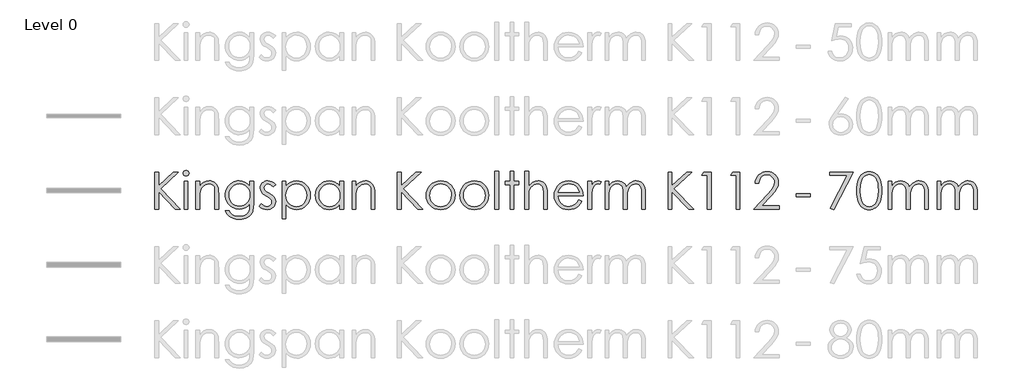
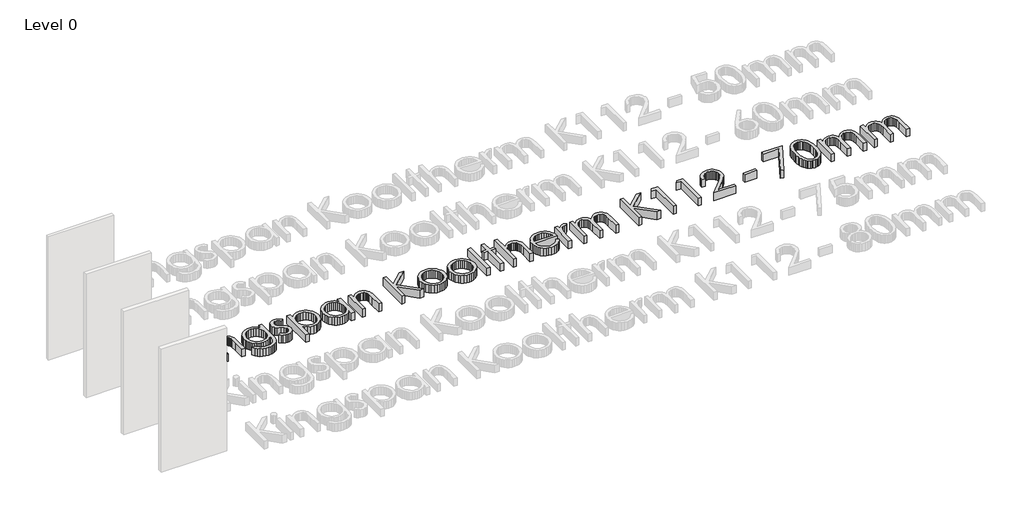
# One storey, part 10 of 14: 1 proxy.
"""IFC4 building model written with IfcOpenShell, lengths in millimetres."""

from ifc_helpers import new_model, si_unit, origin, origin_with_axes, place, context, project, spatial, polyline, outline, extrude, element, save

model = new_model("IFC4")

# Units and contexts
model_context = context("Model", 3, world=origin())
ifc_project = project(units=[si_unit("LENGTHUNIT", "METRE", prefix="MILLI")], contexts=[model_context])

# Site, building, storey
site = spatial("IfcSite", under=ifc_project)
building = spatial("IfcBuilding", under=site)
storey = spatial("IfcBuildingStorey", under=building, Name="Level 0", Elevation=0.0)

# Proxy
placement = place(None, origin())
element("IfcBuildingElementProxy", 1, Name="600mm KI_CenturyGothic", ObjectType="600mm KI_CenturyGothic", at=placement, inside=storey, context=model_context, shape_type="SweptSolid", body=[
    extrude(outline(polyline([(-3852.2663848, 1100.8965983), (-3792.944575, 1100.8965983), (-3792.944575, 881.683973), (-3555.1938841, 1100.8965983), (-3471.6181051, 1100.8965983), (-3760.9664119, 833.9484541), (-3441.9572002, 507.6785001), (-3520.8984627, 507.6785001), (-3792.944575, 785.9039675), (-3792.944575, 507.6785001), (-3852.2663848, 507.6785001), (-3852.2663848, 1100.8965983)])), origin_with_axes(), (0.0, 0.0, 1.0), 150.0),
    extrude(outline(polyline([(-3348.1854852, 1130.5575033), (-3329.145347, 1127.2747208), (-3313.1176445, 1117.4263735), (-3302.226531, 1102.9821307), (-3298.5961598, 1085.911662), (-3302.226531, 1069.0729191), (-3313.1176445, 1054.7059183), (-3329.145347, 1044.857571), (-3348.1854852, 1041.5747885), (-3366.9938975, 1044.857571), (-3382.9443581, 1054.7059183), (-3393.8354717, 1069.0729191), (-3397.4658428, 1085.911662), (-3393.8354717, 1102.9821307), (-3382.9443581, 1117.4263735), (-3366.9938975, 1127.2747208), (-3348.1854852, 1130.5575033)])), origin_with_axes(), (0.0, 0.0, 1.0), 150.0),
    extrude(outline(polyline([(-3377.6919062, 952.5920738), (-3318.3700964, 952.5920738), (-3318.3700964, 507.6785001), (-3377.6919062, 507.6785001), (-3377.6919062, 952.5920738)])), origin_with_axes(), (0.0, 0.0, 1.0), 150.0),
    extrude(outline(polyline([(-3189.8395084, 952.5920738), (-3130.5176986, 952.5920738), (-3130.5176986, 873.4963274), (-3096.9946967, 913.0055796), (-3060.0730495, 940.696815), (-3019.7141359, 957.0334853), (-2975.879335, 962.4790421), (-2953.4357238, 960.9004099), (-2932.2955704, 956.1645135), (-2912.4588747, 948.2713528), (-2893.9256368, 937.2209277), (-2877.212412, 923.4960006), (-2862.835756, 907.5793333), (-2841.0921499, 869.1707787), (-2833.6238199, 844.7912914), (-2828.2892984, 814.4448643), (-2824.0216812, 735.8511905), (-2824.0216812, 507.6785001), (-2883.343491, 507.6785001), (-2883.343491, 720.8662542), (-2883.343491, 823.907002), (-2884.7290183, 844.7043943), (-2889.8125035, 862.7596977), (-2898.2849788, 878.0729123), (-2910.1464442, 890.644038), (-2924.7403432, 900.4441091), (-2941.4101193, 907.4441599), (-2980.977303, 913.0442006), (-3005.3471351, 910.8862539), (-3028.4038541, 904.4124138), (-3050.1474602, 893.6226803), (-3070.5779533, 878.5170534), (-3088.6622225, 860.2348518), (-3103.3671568, 839.915394), (-3114.6927562, 817.55868), (-3122.6390208, 793.1647099), (-3128.5480292, 746.0857475), (-3130.5176986, 671.5858965), (-3130.5176986, 507.6785001), (-3189.8395084, 507.6785001), (-3189.8395084, 952.5920738)])), origin_with_axes(), (0.0, 0.0, 1.0), 150.0),
    extrude(outline(polyline([(-2319.7862977, 952.5920738), (-2260.4644879, 952.5920738), (-2260.4644879, 601.604699), (-2264.5196897, 521.3503235), (-2269.588692, 490.5500999), (-2276.6852953, 465.9678526), (-2289.9371156, 437.3545415), (-2307.2924139, 412.2267729), (-2328.7511904, 390.5845469), (-2354.3134448, 372.4278634), (-2383.3226209, 358.0656902), (-2415.122162, 347.8069951), (-2449.7120682, 341.651778), (-2487.0923395, 339.6000389), (-2541.0458345, 343.6166198), (-2589.206184, 355.6663624), (-2630.260275, 374.4940853), (-2662.8949946, 398.8446068), (-2690.2000204, 432.1938144), (-2715.2650299, 478.0175952), (-2655.94322, 478.0175952), (-2642.4355358, 456.848476), (-2627.0933555, 438.6048954), (-2609.9166791, 423.2868532), (-2590.9055067, 410.8943494), (-2569.7894914, 401.3308318), (-2546.2982864, 394.4997477), (-2492.1903075, 389.0348805), (-2438.5071593, 394.3645743), (-2415.083541, 401.0266916), (-2393.93856, 410.3536559), (-2359.6624492, 434.3952097), (-2336.8567664, 463.8823202), (-2329.3884364, 482.5217658), (-2324.0539149, 506.2302137), (-2319.7862977, 568.8541165), (-2319.7862977, 591.5632468), (-2354.757586, 555.7809182), (-2396.6420279, 529.3834852), (-2443.392712, 513.1047464), (-2492.9627269, 507.6785001), (-2522.4063889, 509.5757553), (-2550.9521133, 515.2675207), (-2578.5999001, 524.7537964), (-2605.3497494, 538.0345825), (-2630.1540674, 554.5257366), (-2651.9652601, 573.6431168), (-2670.7833277, 595.3867228), (-2686.6082702, 619.7565549), (-2699.1456025, 646.0719183), (-2708.1008399, 673.6521184), (-2713.4739824, 702.4971553), (-2715.2650299, 732.607029), (-2713.3967404, 762.8955247), (-2707.7918722, 792.1219437), (-2698.4504251, 820.286286), (-2685.3723991, 847.3885517), (-2668.9971079, 872.5742517), (-2649.7638648, 894.9888971), (-2627.67267, 914.632488), (-2602.7235235, 931.5050242), (-2575.9833294, 945.056157), (-2548.5189922, 954.7355376), (-2520.3305117, 960.543166), (-2491.4178881, 962.4790421), (-2444.5320306, 957.5355579), (-2400.8903346, 942.7051055), (-2359.6045177, 916.1338782), (-2319.7862977, 875.9680694), (-2319.7862977, 952.5920738)]), holes=[polyline([(-2484.1571458, 913.0442006), (-2529.0154023, 907.0193293), (-2570.5908765, 888.9447153), (-2606.2187212, 860.2300242), (-2633.2340897, 822.2849212), (-2650.2659375, 778.0059792), (-2655.94322, 730.2897708), (-2653.0080263, 694.3770964), (-2644.2024452, 661.7182387), (-2629.5264766, 632.3131977), (-2608.9801206, 606.1619734), (-2583.7606272, 584.703197), (-2555.0652466, 569.3754996), (-2522.8939786, 560.1788811), (-2487.2468234, 557.1133416), (-2451.3244937, 560.154743), (-2419.1001219, 569.2789472), (-2390.573708, 584.4859541), (-2365.7452519, 605.7757637), (-2345.6382095, 632.0187128), (-2331.2760363, 662.0851379), (-2322.6587323, 695.975039), (-2319.7862977, 733.6884162), (-2325.0773706, 782.3894593), (-2340.9505892, 825.6063246), (-2366.4983608, 861.8327944), (-2400.8130926, 889.5626508), (-2440.9982119, 907.1738131), (-2484.1571458, 913.0442006)])]), origin_with_axes(), (0.0, 0.0, 1.0), 150.0),
    extrude(outline(polyline([(-1904.5336289, 901.3034257), (-1940.9918246, 863.609359), (-1962.9575012, 885.2371022), (-1984.6721416, 900.6854902), (-2006.1357456, 909.954523), (-2027.3483133, 913.0442006), (-2052.181597, 908.3710632), (-2073.2300256, 894.3516511), (-2087.5970264, 874.1142629), (-2092.3860267, 850.787197), (-2088.4466878, 829.2366958), (-2076.628671, 808.7675817), (-2052.0657341, 786.599145), (-2010.2006027, 760.877579), (-1958.3326401, 728.0111336), (-1939.8428507, 712.1861912), (-1926.315856, 696.7667689), (-1909.9791857, 664.0934284), (-1904.5336289, 627.5579908), (-1906.9474396, 601.4115941), (-1914.1888714, 577.3507299), (-1926.2579245, 555.375398), (-1943.1545989, 535.4855985), (-1963.6719892, 518.9944443), (-1986.6031901, 507.2150485), (-2011.9482016, 500.147411), (-2039.7070237, 497.7915318), (-2077.4397114, 501.6729393), (-2113.3958344, 513.3171617), (-2145.4512394, 531.7972958), (-2171.4817731, 556.1864383), (-2135.7959969, 596.6612148), (-2114.0041146, 575.0334717), (-2091.5749863, 559.5850837), (-2068.5086121, 550.3160509), (-2044.8049918, 547.2263733), (-2013.637869, 552.8650349), (-1987.4914724, 569.7810198), (-1969.7644472, 594.3439566), (-1963.8554388, 622.9234744), (-1967.7561567, 646.7139919), (-1979.4583106, 667.7237995), (-2005.0253927, 689.4287846), (-2050.2119275, 716.2317378), (-2099.762632, 746.8967879), (-2117.441381, 762.0555186), (-2130.3890611, 777.0983864), (-2146.3781427, 809.2310334), (-2151.7078365, 845.689229), (-2149.5305794, 869.7356104), (-2142.9988078, 891.6674937), (-2132.1125219, 911.4848789), (-2116.8717217, 929.187766), (-2098.309518, 943.7526993), (-2077.4590218, 954.1562231), (-2054.3202332, 960.3983373), (-2028.8931521, 962.4790421), (-1997.9481, 958.6555661), (-1966.9064954, 947.185138), (-1935.7683384, 928.0677579), (-1904.5336289, 901.3034257)])), origin_with_axes(), (0.0, 0.0, 1.0), 150.0),
    extrude(outline(polyline([(-1795.7769776, 952.5920738), (-1736.4551678, 952.5920738), (-1736.4551678, 871.4880369), (-1700.9238754, 911.7310876), (-1660.4490989, 940.0788795), (-1614.9922173, 956.8790014), (-1564.5146096, 962.4790421), (-1520.0618732, 958.2403906), (-1478.9305402, 945.5244363), (-1441.1206107, 924.331179), (-1406.6320845, 894.6606189), (-1377.9077381, 859.0231189), (-1357.3903478, 819.929042), (-1345.0799137, 777.3783884), (-1340.9764356, 731.371158), (-1345.0412927, 684.4708176), (-1357.235864, 641.2491246), (-1377.5601494, 601.706079), (-1406.014149, 565.8416808), (-1440.2130179, 536.0697406), (-1477.7719111, 514.8040691), (-1518.6908288, 502.0446661), (-1562.9697708, 497.7915318), (-1612.6170277, 503.256399), (-1658.0545988, 519.6510008), (-1699.3211052, 546.8980951), (-1736.4551678, 584.92044), (-1736.4551678, 349.4870072), (-1795.7769776, 349.4870072), (-1795.7769776, 952.5920738)]), holes=[polyline([(-1568.5311905, 913.0442006), (-1602.5852307, 909.7469353), (-1633.8392507, 899.8551393), (-1662.2932503, 883.3688128), (-1687.9472295, 860.2879556), (-1709.1694525, 832.3022353), (-1724.3281832, 801.1013192), (-1733.4234216, 766.6852074), (-1736.4551678, 729.0538998), (-1731.048232, 680.1983728), (-1714.8274246, 636.5180558), (-1688.5265441, 599.6736505), (-1652.8793888, 571.3258586), (-1611.4390881, 553.2512446), (-1567.7587711, 547.2263733), (-1525.0632888, 553.2898656), (-1485.0326535, 571.4803424), (-1450.2544701, 600.5812433), (-1423.3163435, 639.3760076), (-1406.05277, 684.0411593), (-1400.2982454, 730.7532225), (-1405.9948385, 777.6970114), (-1423.0846177, 822.1304373), (-1449.8103289, 860.4810605), (-1484.414718, 889.1764411), (-1524.7157001, 907.0772607), (-1568.5311905, 913.0442006)])]), origin_with_axes(), (0.0, 0.0, 1.0), 150.0),
    extrude(outline(polyline([(-807.0801472, 952.5920738), (-807.0801472, 507.6785001), (-866.401957, 507.6785001), (-866.401957, 583.5300851), (-903.4780882, 545.6815345), (-944.8797679, 518.9558233), (-990.4525125, 503.0826047), (-1040.0418379, 497.7915318), (-1084.3159523, 502.0446661), (-1125.2203871, 514.8040691), (-1162.7551422, 536.0697406), (-1196.9202178, 565.8416808), (-1225.340424, 601.706079), (-1245.6405713, 641.2491246), (-1257.8206597, 684.4708176), (-1261.8806892, 731.371158), (-1257.7820388, 777.3783884), (-1245.4860875, 819.929042), (-1224.9928353, 859.0231189), (-1196.3022822, 894.6606189), (-1161.8475494, 924.331179), (-1124.061758, 945.5244363), (-1082.9449079, 958.2403906), (-1038.4969991, 962.4790421), (-987.7490446, 956.8790014), (-942.0990581, 940.0788795), (-921.2051134, 927.3918909), (-901.6242816, 911.7310876), (-866.401957, 871.4880369), (-866.401957, 952.5920738), (-807.0801472, 952.5920738)]), holes=[polyline([(-1034.3259343, 913.0442006), (-1078.1414247, 907.0772607), (-1118.4424068, 889.1764411), (-1153.0467959, 860.4810605), (-1179.7725071, 822.1304373), (-1196.8622863, 777.6970114), (-1202.5588794, 730.7532225), (-1196.8043548, 684.0411593), (-1179.5407813, 639.3760076), (-1152.6026548, 600.5812433), (-1117.8244713, 571.4803424), (-1077.6779731, 553.2898656), (-1034.6349021, 547.2263733), (-991.0125165, 553.2512446), (-949.7460102, 571.3258586), (-914.2726493, 599.6736505), (-888.0297002, 636.5180558), (-871.8088928, 680.1983728), (-866.401957, 729.0538998), (-869.4337032, 766.6852074), (-878.5289416, 801.1013192), (-893.6876723, 832.3022353), (-914.9098953, 860.2879556), (-940.5638746, 883.3688128), (-969.0178742, 899.8551393), (-1000.2718941, 909.7469353), (-1034.3259343, 913.0442006)])]), origin_with_axes(), (0.0, 0.0, 1.0), 150.0),
    extrude(outline(polyline([(-668.662591, 952.5920738), (-609.3407811, 952.5920738), (-609.3407811, 873.4963274), (-575.8177792, 913.0055796), (-538.896132, 940.696815), (-498.5372184, 957.0334853), (-454.7024175, 962.4790421), (-432.2588064, 960.9004099), (-411.1186529, 956.1645135), (-391.2819572, 948.2713528), (-372.7487193, 937.2209277), (-356.0354946, 923.4960006), (-341.6588385, 907.5793333), (-319.9152324, 869.1707787), (-312.4469024, 844.7912914), (-307.1123809, 814.4448643), (-302.8447637, 735.8511905), (-302.8447637, 507.6785001), (-362.1665735, 507.6785001), (-362.1665735, 720.8662542), (-362.1665735, 823.907002), (-363.5521008, 844.7043943), (-368.635586, 862.7596977), (-377.1080613, 878.0729123), (-388.9695267, 890.644038), (-403.5634257, 900.4441091), (-420.2332018, 907.4441599), (-459.8003855, 913.0442006), (-484.1702176, 910.8862539), (-507.2269366, 904.4124138), (-528.9705427, 893.6226803), (-549.4010358, 878.5170534), (-567.485305, 860.2348518), (-582.1902393, 839.915394), (-593.5158387, 817.55868), (-601.4621033, 793.1647099), (-607.3711117, 746.0857475), (-609.3407811, 671.5858965), (-609.3407811, 507.6785001), (-668.662591, 507.6785001), (-668.662591, 952.5920738)])), origin_with_axes(), (0.0, 0.0, 1.0), 150.0),
    extrude(outline(polyline([(62.9730635, 1100.8965983), (122.2948734, 1100.8965983), (122.2948734, 881.683973), (360.0455643, 1100.8965983), (443.6213432, 1100.8965983), (154.2730365, 833.9484541), (473.2822481, 507.6785001), (394.3409856, 507.6785001), (122.2948734, 785.9039675), (122.2948734, 507.6785001), (62.9730635, 507.6785001), (62.9730635, 1100.8965983)])), origin_with_axes(), (0.0, 0.0, 1.0), 150.0),
    extrude(outline(polyline([(760.1588128, 962.4790421), (809.4681362, 957.8541809), (854.3553585, 943.9795975), (894.8204798, 920.8552917), (930.8635, 888.4812637), (957.7630055, 853.2492839), (976.9769381, 814.908316), (988.5052976, 773.45836), (992.3480841, 728.8994159), (988.283227, 684.0846079), (976.0886558, 642.1760279), (955.7643703, 603.1736759), (927.3103707, 567.0775519), (892.4742558, 536.7649181), (853.0036246, 515.1130368), (808.8984769, 502.1219081), (760.1588128, 497.7915318), (711.2839754, 502.1219081), (667.0822753, 515.1130368), (627.5537126, 536.7649181), (592.6982872, 567.0775519), (564.2442876, 603.1736759), (543.9200022, 642.1760279), (531.7254309, 684.0846079), (527.6605738, 728.8994159), (531.5033603, 773.2652551), (543.0317198, 814.5993482), (562.2456524, 852.9016951), (589.145158, 888.1722959), (625.2074886, 920.6814974), (665.7305413, 943.9023555), (710.7143161, 957.8348705), (760.1588128, 962.4790421)]), holes=[polyline([(760.004329, 913.0442006), (725.7282181, 909.6696933), (693.9624704, 899.5461716), (664.7070856, 882.6736353), (637.962064, 859.0520846), (615.6584538, 830.6415336), (599.7273037, 799.4019965), (590.1686137, 765.3334734), (586.9823836, 728.4359643), (592.7948396, 680.7004454), (610.2322075, 636.3635719), (637.5758543, 598.5729529), (673.1071466, 570.4761972), (714.6439998, 553.0388293), (760.004329, 547.2263733), (805.3646581, 553.0388293), (846.9015113, 570.4761972), (882.4328037, 598.5729529), (909.7764504, 636.3635719), (927.2138183, 680.7004454), (933.0262743, 728.4359643), (929.8255614, 765.3334734), (920.2234227, 799.4019965), (904.2198583, 830.6415336), (881.8148681, 859.0520846), (854.9974321, 882.6736353), (825.7565303, 899.5461716), (794.0921625, 909.6696933), (760.004329, 913.0442006)])]), origin_with_axes(), (0.0, 0.0, 1.0), 150.0),
    extrude(outline(polyline([(1303.9420695, 962.4790421), (1353.2513929, 957.8541809), (1398.1386152, 943.9795975), (1438.6037365, 920.8552917), (1474.6467567, 888.4812637), (1501.5462622, 853.2492839), (1520.7601948, 814.908316), (1532.2885543, 773.45836), (1536.1313408, 728.8994159), (1532.0664837, 684.0846079), (1519.8719125, 642.1760279), (1499.547627, 603.1736759), (1471.0936274, 567.0775519), (1436.2575126, 536.7649181), (1396.7868813, 515.1130368), (1352.6817336, 502.1219081), (1303.9420695, 497.7915318), (1255.0672321, 502.1219081), (1210.865532, 515.1130368), (1171.3369693, 536.7649181), (1136.4815439, 567.0775519), (1108.0275443, 603.1736759), (1087.7032589, 642.1760279), (1075.5086876, 684.0846079), (1071.4438305, 728.8994159), (1075.286617, 773.2652551), (1086.8149766, 814.5993482), (1106.0289091, 852.9016951), (1132.9284147, 888.1722959), (1168.9907453, 920.6814974), (1209.5137981, 943.9023555), (1254.4975728, 957.8348705), (1303.9420695, 962.4790421)]), holes=[polyline([(1303.7875857, 913.0442006), (1269.5114748, 909.6696933), (1237.7457271, 899.5461716), (1208.4903423, 882.6736353), (1181.7453207, 859.0520846), (1159.4417105, 830.6415336), (1143.5105604, 799.4019965), (1133.9518704, 765.3334734), (1130.7656404, 728.4359643), (1136.5780963, 680.7004454), (1154.0154643, 636.3635719), (1181.359111, 598.5729529), (1216.8904033, 570.4761972), (1258.4272565, 553.0388293), (1303.7875857, 547.2263733), (1349.1479149, 553.0388293), (1390.684768, 570.4761972), (1426.2160604, 598.5729529), (1453.5597071, 636.3635719), (1470.997075, 680.7004454), (1476.809531, 728.4359643), (1473.6088181, 765.3334734), (1464.0066795, 799.4019965), (1448.003115, 830.6415336), (1425.5981249, 859.0520846), (1398.7806889, 882.6736353), (1369.539787, 899.5461716), (1337.8754193, 909.6696933), (1303.7875857, 913.0442006)])]), origin_with_axes(), (0.0, 0.0, 1.0), 150.0),
    extrude(outline(polyline([(1635.0010238, 1120.6705349), (1694.3228337, 1120.6705349), (1694.3228337, 507.6785001), (1635.0010238, 507.6785001), (1635.0010238, 1120.6705349)])), origin_with_axes(), (0.0, 0.0, 1.0), 150.0),
    extrude(outline(polyline([(1882.1752314, 1120.6705349), (1941.4970413, 1120.6705349), (1941.4970413, 952.5920738), (2020.5927877, 952.5920738), (2020.5927877, 903.1572323), (1941.4970413, 903.1572323), (1941.4970413, 507.6785001), (1882.1752314, 507.6785001), (1882.1752314, 903.1572323), (1803.079485, 903.1572323), (1803.079485, 952.5920738), (1882.1752314, 952.5920738), (1882.1752314, 1120.6705349)])), origin_with_axes(), (0.0, 0.0, 1.0), 150.0),
    extrude(outline(polyline([(2119.4624707, 1120.6705349), (2178.7842806, 1120.6705349), (2178.7842806, 871.9514886), (2212.5583188, 911.6538456), (2249.6151394, 939.9243956), (2289.9161216, 956.8403805), (2333.4226442, 962.4790421), (2355.8662553, 960.9004099), (2377.0064088, 956.1645135), (2396.8431044, 948.2713528), (2415.3763424, 937.2209277), (2432.0895671, 923.5104834), (2446.4662232, 907.6372648), (2468.2098293, 869.4025045), (2475.6781593, 845.0954316), (2481.0126808, 814.7345216), (2485.280298, 735.8511905), (2485.280298, 507.6785001), (2425.9584882, 507.6785001), (2425.9584882, 720.8662542), (2424.5681332, 785.247411), (2420.3970685, 823.907002), (2406.879729, 862.7596977), (2397.1665551, 878.0729123), (2385.4837117, 890.644038), (2371.840854, 900.4441091), (2356.2476374, 907.4441599), (2319.2101273, 913.0442006), (2296.3416854, 910.8862539), (2274.6994594, 904.4124138), (2254.2834492, 893.6226803), (2235.0936547, 878.5170534), (2218.1052556, 860.2348518), (2204.2934312, 839.915394), (2193.6581816, 817.55868), (2186.1995068, 793.1647099), (2180.6380871, 746.3174733), (2178.7842806, 671.5858965), (2178.7842806, 507.6785001), (2119.4624707, 507.6785001), (2119.4624707, 1120.6705349)])), origin_with_axes(), (0.0, 0.0, 1.0), 150.0),
    extrude(outline(polyline([(2991.0605203, 655.9830247), (3038.950523, 630.8021523), (3013.3255094, 588.9177104), (2984.0315038, 555.9547125), (2950.952643, 530.8703926), (2913.9730643, 512.6219843), (2872.4941426, 501.4991449), (2825.9172528, 497.7915318), (2774.4258447, 502.2232881), (2728.8627554, 515.518557), (2689.227985, 537.6773385), (2655.5215335, 568.6996326), (2628.6220279, 605.3026569), (2609.4080954, 644.2036288), (2597.8797358, 685.4025485), (2594.0369493, 728.8994159), (2597.3197318, 769.7797126), (2607.1680791, 808.381372), (2623.5819913, 844.7043943), (2646.5614684, 878.7487793), (2682.7493173, 915.3807692), (2724.5758277, 941.5464764), (2772.0409998, 957.2459007), (2825.1448334, 962.4790421), (2879.7935059, 957.1107273), (2928.6490329, 941.0057828), (2971.7114143, 914.1642087), (3008.9806503, 876.5860049), (3030.4539096, 844.414737), (3045.9022976, 808.458614), (3055.3258143, 768.7176359), (3058.7244596, 725.1918028), (2653.3587591, 725.1918028), (2657.095338, 687.9370497), (2666.6057518, 654.1871496), (2681.8900007, 623.9421025), (2702.9480845, 597.2019084), (2728.3124066, 575.3376118), (2756.5153699, 559.7202571), (2787.5569744, 550.3498443), (2821.4372203, 547.2263733), (2854.9602222, 550.238809), (2887.5563208, 559.2761159), (2917.2944677, 573.3148385), (2942.2436143, 591.331521), (2965.725164, 617.4972281), (2991.0605203, 655.9830247)]), holes=[polyline([(2999.4026498, 774.6266443), (2984.9777175, 817.1483322), (2965.1844704, 850.1692615), (2939.0766947, 875.6977226), (2905.7081767, 895.742006), (2867.7630738, 908.7186519), (2827.9255433, 913.0442006), (2795.503239, 910.3310774), (2765.4368139, 902.191708), (2737.726268, 888.6260923), (2712.3716012, 869.6342304), (2695.8321708, 851.820308), (2681.4362043, 830.0477362), (2669.1837016, 804.316515), (2659.0746627, 774.6266443), (2999.4026498, 774.6266443)])]), origin_with_axes(), (0.0, 0.0, 1.0), 150.0),
    extrude(outline(polyline([(3137.820206, 952.5920738), (3197.1420159, 952.5920738), (3197.1420159, 888.1722959), (3222.6897875, 921.2125357), (3249.589293, 944.3271862), (3277.7632906, 957.9410781), (3307.1345382, 962.4790421), (3330.4616041, 958.694187), (3355.3335087, 947.3396219), (3325.8270877, 905.3200066), (3297.2475699, 913.0442006), (3270.8308265, 907.0965712), (3245.3409863, 889.2536831), (3223.2884125, 858.8976007), (3207.183468, 815.4103886), (3199.6523789, 757.2858288), (3197.1420159, 659.8451217), (3197.1420159, 507.6785001), (3137.820206, 507.6785001), (3137.820206, 952.5920738)])), origin_with_axes(), (0.0, 0.0, 1.0), 150.0),
    extrude(outline(polyline([(3414.6553185, 952.5920738), (3473.9771284, 952.5920738), (3473.9771284, 876.4315211), (3503.5607913, 912.9283377), (3533.9168737, 938.0705891), (3577.3268439, 956.3769288), (3622.8995884, 962.4790421), (3653.7384329, 959.331433), (3682.9165757, 949.8886059), (3708.6767627, 935.2126373), (3729.2617397, 916.365604), (3746.0425511, 890.9336953), (3760.3902414, 856.5031006), (3775.16759, 880.9018983), (3791.6925376, 902.191708), (3809.965084, 920.3725296), (3829.9852293, 935.4443631), (3851.2798666, 947.2720352), (3873.375889, 955.7203723), (3896.2732965, 960.7893747), (3919.9720892, 962.4790421), (3962.3006723, 956.6665861), (3981.4952943, 949.4010161), (3999.3768034, 939.2292182), (4015.4914031, 926.46016), (4029.385297, 911.4028093), (4050.5109676, 874.4232306), (4057.8103309, 851.0478886), (4063.0241619, 822.4780261), (4067.1952266, 749.7547397), (4067.1952266, 507.6785001), (4007.8734168, 507.6785001), (4007.8734168, 753.3078689), (4005.4209852, 814.4255538), (3998.0636904, 852.8727294), (3984.7587663, 877.3391139), (3964.4634466, 896.5144254), (3938.3942919, 908.9117568), (3907.7678627, 913.0442006), (3888.1194443, 911.4945341), (3869.3399976, 906.8455349), (3834.3880198, 888.2495379), (3805.6540182, 859.3031209), (3785.8800816, 822.0531954), (3779.1889985, 797.8957787), (3774.4096535, 766.8252084), (3770.5861775, 683.9446069), (3770.5861775, 507.6785001), (3711.2643677, 507.6785001), (3711.2643677, 738.0139648), (3708.850557, 806.469634), (3701.6091252, 848.7016647), (3688.3621325, 874.9446137), (3667.9316394, 895.4330383), (3641.6114484, 908.64141), (3610.6953619, 913.0442006), (3573.7544042, 907.0000188), (3539.2465676, 888.8674734), (3510.2808401, 860.500371), (3489.9662099, 823.7525181), (3477.9743988, 771.9231764), (3473.9771284, 698.3116077), (3473.9771284, 507.6785001), (3414.6553185, 507.6785001), (3414.6553185, 952.5920738)])), origin_with_axes(), (0.0, 0.0, 1.0), 150.0),
    extrude(outline(polyline([(4433.0130538, 1100.8965983), (4492.3348637, 1100.8965983), (4492.3348637, 881.683973), (4730.0855546, 1100.8965983), (4813.6613335, 1100.8965983), (4524.3130268, 833.9484541), (4843.3222385, 507.6785001), (4764.3809759, 507.6785001), (4492.3348637, 785.9039675), (4492.3348637, 507.6785001), (4433.0130538, 507.6785001), (4433.0130538, 1100.8965983)])), origin_with_axes(), (0.0, 0.0, 1.0), 150.0),
    extrude(outline(polyline([(5010.6282802, 1100.8965983), (5125.1008351, 1100.8965983), (5125.1008351, 507.6785001), (5065.7790253, 507.6785001), (5065.7790253, 1051.4617568), (4976.7963106, 1051.4617568), (5010.6282802, 1100.8965983)])), origin_with_axes(), (0.0, 0.0, 1.0), 150.0),
    extrude(outline(polyline([(5475.3157905, 1100.8965983), (5589.7883454, 1100.8965983), (5589.7883454, 507.6785001), (5530.4665356, 507.6785001), (5530.4665356, 1051.4617568), (5441.4838208, 1051.4617568), (5475.3157905, 1100.8965983)])), origin_with_axes(), (0.0, 0.0, 1.0), 150.0),
    extrude(outline(polyline([(5896.2843628, 922.9311689), (5836.962553, 922.9311689), (5841.4474131, 962.1893848), (5852.5847353, 997.7786086), (5870.3745196, 1029.6988403), (5894.816766, 1057.9500798), (5924.2121517, 1081.0647303), (5956.8613542, 1097.5751949), (5992.7643733, 1107.4814737), (6031.9212092, 1110.7835666), (6070.3925229, 1107.4863013), (6105.0113948, 1097.5945054), (6135.777825, 1081.1081789), (6162.6918135, 1058.0273217), (6184.5561101, 1030.466432), (6200.1734648, 1000.540008), (6209.5438776, 968.2480495), (6212.6673485, 933.5905566), (6206.5845458, 884.7929611), (6188.3361375, 839.1236641), (6152.5538088, 787.236391), (6093.869245, 719.784867), (5941.084688, 557.1133416), (6222.5543169, 557.1133416), (6222.5543169, 507.6785001), (5817.1886164, 507.6785001), (6043.1985325, 748.3643848), (6099.9327373, 813.8848603), (6132.6446988, 859.9789879), (6148.1703288, 897.3447763), (6153.3455387, 936.6802342), (6151.0958672, 961.2866196), (6144.3468527, 984.1260957), (6133.0984952, 1005.1986625), (6117.3507947, 1024.5043198), (6098.3396223, 1040.6237471), (6077.3008489, 1052.1376238), (6054.2344746, 1059.0459498), (6029.1404994, 1061.3487251), (6002.8058255, 1059.0749155), (5978.7980651, 1052.2534867), (5957.1172181, 1040.8844387), (5937.7632845, 1024.9677714), (5921.5279943, 1004.9476262), (5909.2030773, 981.268144), (5900.7885334, 953.9293249), (5896.2843628, 922.9311689)])), origin_with_axes(), (0.0, 0.0, 1.0), 150.0),
    extrude(outline(polyline([(6499.3894294, 754.8527077), (6726.7897004, 754.8527077), (6726.7897004, 705.4178662), (6499.3894294, 705.4178662), (6499.3894294, 754.8527077)])), origin_with_axes(), (0.0, 0.0, 1.0), 150.0),
    extrude(outline(polyline([(7043.1726861, 1100.8965983), (7418.8774816, 1100.8965983), (7102.4944959, 497.7915318), (7048.5796219, 520.1916944), (7327.2685409, 1051.4617568), (7043.1726861, 1051.4617568), (7043.1726861, 1100.8965983)])), origin_with_axes(), (0.0, 0.0, 1.0), 150.0),
    extrude(outline(polyline([(7478.1992914, 804.1330653), (7479.7779236, 858.5644948), (7484.51382, 906.4593252), (7492.4069808, 947.8175564), (7503.4574058, 982.6391884), (7517.3850931, 1012.2807828), (7533.9100406, 1038.0989012), (7553.0322483, 1060.0935436), (7574.7517163, 1078.26471), (7598.4456813, 1092.4917098), (7623.4913804, 1102.6538525), (7649.8888133, 1108.7511381), (7677.6379802, 1110.7835666), (7705.8409435, 1108.7366552), (7732.6728624, 1102.595921), (7758.1337368, 1092.361364), (7782.2235668, 1078.0329841), (7804.4064864, 1059.6156091), (7824.1466297, 1037.1140665), (7841.4439966, 1010.5283563), (7856.2985871, 979.8584786), (7868.2276392, 944.3416691), (7876.7483907, 903.2151637), (7881.8608416, 856.4789625), (7883.5649919, 804.1330653), (7881.8849797, 751.9464797), (7876.8449431, 705.3792452), (7868.4448822, 664.4313618), (7856.6847968, 629.1028296), (7841.9750349, 598.5777805), (7824.7259442, 572.0403465), (7804.9375247, 549.4905277), (7782.6097765, 530.928324), (7758.3509797, 516.4309774), (7732.7694148, 506.0757299), (7705.8650816, 499.8625813), (7677.6379802, 497.7915318), (7649.9129514, 499.7998222), (7623.5879328, 505.8246936), (7598.6629243, 515.8661457), (7575.137926, 529.9241788), (7553.5632867, 547.9601718), (7534.4893551, 569.9355036), (7517.9161314, 595.8501745), (7503.8436155, 625.7041842), (7492.6242237, 660.7237487), (7484.6103725, 702.1350837), (7479.8020617, 749.9381893), (7478.1992914, 804.1330653)]), holes=[polyline([(7537.5211013, 804.2875492), (7541.9045814, 715.961391), (7547.3839315, 680.9804475), (7555.0550216, 652.1209277), (7564.8695756, 627.8814414), (7576.7793172, 606.7605985), (7590.7842464, 588.7583989), (7606.8843633, 573.8748426), (7642.1839298, 553.8884906), (7660.586822, 548.8919027), (7679.4917868, 547.2263733), (7698.4836487, 548.8581093), (7716.8382647, 553.7533172), (7751.6357586, 573.334149), (7767.3931143, 588.0101176), (7781.1421796, 605.9302476), (7792.8829545, 627.0945392), (7802.6154389, 651.5029922), (7812.0775766, 684.8618549), (7818.8362463, 721.4455687), (7824.2431821, 804.2875492), (7819.4155608, 885.8936587), (7813.3810343, 920.5849449), (7804.9326971, 951.2017189), (7794.3505514, 977.864671), (7781.914599, 1000.6944918), (7767.6248402, 1019.6911814), (7751.4812747, 1034.8547397), (7716.413434, 1054.7252288), (7698.1843362, 1059.692851), (7679.4917868, 1061.3487251), (7660.4757867, 1059.692851), (7642.0487564, 1054.7252288), (7606.9616052, 1034.8547397), (7591.0159723, 1020.0435978), (7577.088285, 1002.1041572), (7565.1785434, 981.0364181), (7555.2867474, 956.8403805), (7547.5142772, 927.9856883), (7541.9625128, 892.9419857), (7537.5211013, 804.2875492)])]), origin_with_axes(), (0.0, 0.0, 1.0), 150.0),
    extrude(outline(polyline([(7982.4346749, 952.5920738), (8041.7564848, 952.5920738), (8041.7564848, 876.4315211), (8071.3401477, 912.9283377), (8101.6962301, 938.0705891), (8145.1062003, 956.3769288), (8190.6789448, 962.4790421), (8221.5177893, 959.331433), (8250.6959321, 949.8886059), (8276.4561191, 935.2126373), (8297.0410961, 916.365604), (8313.8219075, 890.9336953), (8328.1695978, 856.5031006), (8342.9469464, 880.9018983), (8359.471894, 902.191708), (8377.7444404, 920.3725296), (8397.7645856, 935.4443631), (8419.0592229, 947.2720352), (8441.1552454, 955.7203723), (8464.0526529, 960.7893747), (8487.7514456, 962.4790421), (8530.0800287, 956.6665861), (8549.2746507, 949.4010161), (8567.1561598, 939.2292182), (8583.2707595, 926.46016), (8597.1646534, 911.4028093), (8618.290324, 874.4232306), (8625.5896873, 851.0478886), (8630.8035182, 822.4780261), (8634.974583, 749.7547397), (8634.974583, 507.6785001), (8575.6527732, 507.6785001), (8575.6527732, 753.3078689), (8573.2003416, 814.4255538), (8565.8430468, 852.8727294), (8552.5381227, 877.3391139), (8532.242803, 896.5144254), (8506.1736483, 908.9117568), (8475.5472191, 913.0442006), (8455.8988006, 911.4945341), (8437.119354, 906.8455349), (8402.1673762, 888.2495379), (8373.4333746, 859.3031209), (8353.659438, 822.0531954), (8346.9683549, 797.8957787), (8342.1890099, 766.8252084), (8338.3655339, 683.9446069), (8338.3655339, 507.6785001), (8279.0437241, 507.6785001), (8279.0437241, 738.0139648), (8276.6299134, 806.469634), (8269.3884816, 848.7016647), (8256.1414889, 874.9446137), (8235.7109958, 895.4330383), (8209.3908048, 908.64141), (8178.4747183, 913.0442006), (8141.5337606, 907.0000188), (8107.025924, 888.8674734), (8078.0601965, 860.500371), (8057.7455663, 823.7525181), (8045.7537552, 771.9231764), (8041.7564848, 698.3116077), (8041.7564848, 507.6785001), (7982.4346749, 507.6785001), (7982.4346749, 952.5920738)])), origin_with_axes(), (0.0, 0.0, 1.0), 150.0),
    extrude(outline(polyline([(8773.3921393, 952.5920738), (8832.7139491, 952.5920738), (8832.7139491, 876.4315211), (8862.2976121, 912.9283377), (8892.6536944, 938.0705891), (8936.0636646, 956.3769288), (8981.6364092, 962.4790421), (9012.4752537, 959.331433), (9041.6533964, 949.8886059), (9067.4135834, 935.2126373), (9087.9985604, 916.365604), (9104.7793718, 890.9336953), (9119.1270621, 856.5031006), (9133.9044108, 880.9018983), (9150.4293583, 902.191708), (9168.7019047, 920.3725296), (9188.72205, 935.4443631), (9210.0166873, 947.2720352), (9232.1127097, 955.7203723), (9255.0101172, 960.7893747), (9278.7089099, 962.4790421), (9321.037493, 956.6665861), (9340.232115, 949.4010161), (9358.1136241, 939.2292182), (9374.2282238, 926.46016), (9388.1221177, 911.4028093), (9409.2477883, 874.4232306), (9416.5471516, 851.0478886), (9421.7609826, 822.4780261), (9425.9320473, 749.7547397), (9425.9320473, 507.6785001), (9366.6102375, 507.6785001), (9366.6102375, 753.3078689), (9364.1578059, 814.4255538), (9356.8005111, 852.8727294), (9343.495587, 877.3391139), (9323.2002673, 896.5144254), (9297.1311126, 908.9117568), (9266.5046834, 913.0442006), (9246.856265, 911.4945341), (9228.0768183, 906.8455349), (9193.1248405, 888.2495379), (9164.3908389, 859.3031209), (9144.6169023, 822.0531954), (9137.9258192, 797.8957787), (9133.1464742, 766.8252084), (9129.3229982, 683.9446069), (9129.3229982, 507.6785001), (9070.0011884, 507.6785001), (9070.0011884, 738.0139648), (9067.5873778, 806.469634), (9060.3459459, 848.7016647), (9047.0989532, 874.9446137), (9026.6684601, 895.4330383), (9000.3482691, 908.64141), (8969.4321827, 913.0442006), (8932.4912249, 907.0000188), (8897.9833883, 888.8674734), (8869.0176608, 860.500371), (8848.7030306, 823.7525181), (8836.7112195, 771.9231764), (8832.7139491, 698.3116077), (8832.7139491, 507.6785001), (8773.3921393, 507.6785001), (8773.3921393, 952.5920738)])), origin_with_axes(), (0.0, 0.0, 1.0), 150.0),
])

save(model, "model.ifc")
